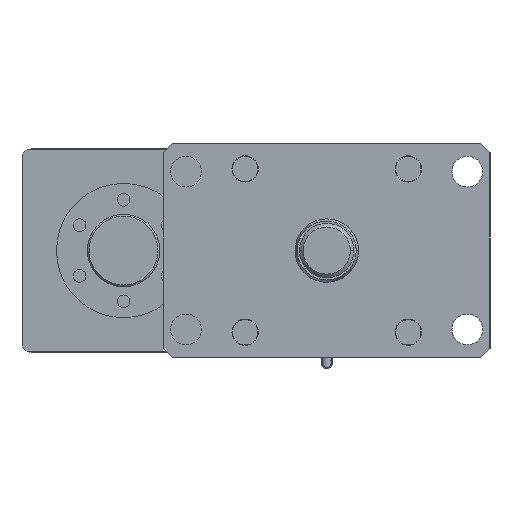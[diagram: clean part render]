
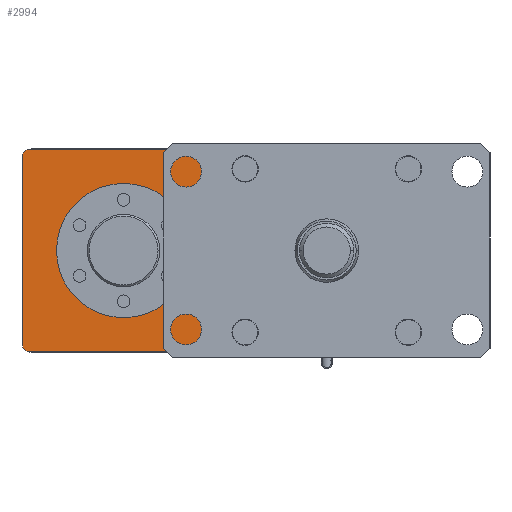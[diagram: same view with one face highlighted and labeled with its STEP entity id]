
A CAD part, front view. The second image highlights one B-rep face of the part: STEP entity #2994.
In plain terms, the highlighted planar face has unit normal (0, -1, 0).
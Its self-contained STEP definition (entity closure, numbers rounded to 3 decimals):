
#30 = DIRECTION ( 'NONE',  ( 0., 1., 0. ) ) ;
#59 = DIRECTION ( 'NONE',  ( 0., -1., 0. ) ) ;
#430 = DIRECTION ( 'NONE',  ( 0., -1., 0. ) ) ;
#764 = AXIS2_PLACEMENT_3D ( 'NONE', #7480, #59, #8752 ) ;
#833 = DIRECTION ( 'NONE',  ( -1., 0., 0. ) ) ;
#948 = EDGE_CURVE ( 'NONE', #4993, #2813, #9617, .T. ) ;
#1045 = DIRECTION ( 'NONE',  ( 0., 0., -1. ) ) ;
#1135 = VECTOR ( 'NONE', #1045, 1000. ) ;
#1387 = DIRECTION ( 'NONE',  ( 0., -1., 0. ) ) ;
#1525 = LINE ( 'NONE', #15896, #1135 ) ;
#1833 = AXIS2_PLACEMENT_3D ( 'NONE', #7446, #30, #8708 ) ;
#2014 = ORIENTED_EDGE ( 'NONE', *, *, #15987, .T. ) ;
#2072 = ORIENTED_EDGE ( 'NONE', *, *, #7945, .T. ) ;
#2134 = CARTESIAN_POINT ( 'NONE',  ( -112., 0., 0. ) ) ;
#2206 = EDGE_CURVE ( 'NONE', #8341, #6620, #7810, .T. ) ;
#2387 = LINE ( 'NONE', #7598, #5298 ) ;
#2523 = AXIS2_PLACEMENT_3D ( 'NONE', #8802, #1387, #10065 ) ;
#2741 = CARTESIAN_POINT ( 'NONE',  ( -59.6, 0., 55.8 ) ) ;
#2813 = VERTEX_POINT ( 'NONE', #12913 ) ;
#2994 = ADVANCED_FACE ( 'NONE', ( #5665, #12659 ), #13645, .F. ) ;
#3238 = ORIENTED_EDGE ( 'NONE', *, *, #2206, .T. ) ;
#3393 = DIRECTION ( 'NONE',  ( -1., 0., 0. ) ) ;
#3549 = AXIS2_PLACEMENT_3D ( 'NONE', #15676, #8252, #833 ) ;
#3856 = CARTESIAN_POINT ( 'NONE',  ( -56.2, 0., 56. ) ) ;
#4129 = VECTOR ( 'NONE', #13704, 1000. ) ;
#4281 = CIRCLE ( 'NONE', #3549, 5. ) ;
#4766 = CARTESIAN_POINT ( 'NONE',  ( -164.4, 0., -55.8 ) ) ;
#4993 = VERTEX_POINT ( 'NONE', #8058 ) ;
#5028 = CIRCLE ( 'NONE', #2523, 37. ) ;
#5298 = VECTOR ( 'NONE', #8805, 1000. ) ;
#5406 = VECTOR ( 'NONE', #12203, 1000. ) ;
#5665 = FACE_OUTER_BOUND ( 'NONE', #10993, .T. ) ;
#5795 = LINE ( 'NONE', #10942, #5406 ) ;
#6166 = EDGE_LOOP ( 'NONE', ( #11599, #9870 ) ) ;
#6620 = VERTEX_POINT ( 'NONE', #11519 ) ;
#6894 = EDGE_CURVE ( 'NONE', #15591, #4993, #2387, .T. ) ;
#7446 = CARTESIAN_POINT ( 'NONE',  ( -168., 0., 56. ) ) ;
#7480 = CARTESIAN_POINT ( 'NONE',  ( -163., 0., 51. ) ) ;
#7598 = CARTESIAN_POINT ( 'NONE',  ( -168., 0., 55.8 ) ) ;
#7779 = CIRCLE ( 'NONE', #13100, 5. ) ;
#7810 = LINE ( 'NONE', #3856, #4129 ) ;
#7844 = CARTESIAN_POINT ( 'NONE',  ( -163., 0., -51. ) ) ;
#7945 = EDGE_CURVE ( 'NONE', #13363, #15993, #7779, .T. ) ;
#8058 = CARTESIAN_POINT ( 'NONE',  ( -164.4, 0., 55.8 ) ) ;
#8252 = DIRECTION ( 'NONE',  ( 0., -1., 0. ) ) ;
#8341 = VERTEX_POINT ( 'NONE', #12564 ) ;
#8625 = EDGE_CURVE ( 'NONE', #6620, #15591, #4281, .T. ) ;
#8708 = DIRECTION ( 'NONE',  ( -1., 0., 0. ) ) ;
#8752 = DIRECTION ( 'NONE',  ( -1., 0., 0. ) ) ;
#8802 = CARTESIAN_POINT ( 'NONE',  ( -112., 0., 0. ) ) ;
#8805 = DIRECTION ( 'NONE',  ( -1., 0., 0. ) ) ;
#9126 = DIRECTION ( 'NONE',  ( -1., 0., 0. ) ) ;
#9617 = CIRCLE ( 'NONE', #764, 5. ) ;
#9870 = ORIENTED_EDGE ( 'NONE', *, *, #13527, .F. ) ;
#10065 = DIRECTION ( 'NONE',  ( -1., 0., 0. ) ) ;
#10106 = VERTEX_POINT ( 'NONE', #15117 ) ;
#10346 = CIRCLE ( 'NONE', #11432, 37. ) ;
#10459 = CARTESIAN_POINT ( 'NONE',  ( -167.8, 0., -52.4 ) ) ;
#10610 = ORIENTED_EDGE ( 'NONE', *, *, #6894, .T. ) ;
#10810 = DIRECTION ( 'NONE',  ( 0., -1., 0. ) ) ;
#10942 = CARTESIAN_POINT ( 'NONE',  ( -168., 0., -55.8 ) ) ;
#10993 = EDGE_LOOP ( 'NONE', ( #3238, #11805, #10610, #15271, #15176, #2072, #2014 ) ) ;
#11293 = VERTEX_POINT ( 'NONE', #11779 ) ;
#11432 = AXIS2_PLACEMENT_3D ( 'NONE', #2134, #10810, #3393 ) ;
#11438 = EDGE_CURVE ( 'NONE', #2813, #13363, #1525, .T. ) ;
#11519 = CARTESIAN_POINT ( 'NONE',  ( -56.2, 0., 52.4 ) ) ;
#11599 = ORIENTED_EDGE ( 'NONE', *, *, #15521, .F. ) ;
#11779 = CARTESIAN_POINT ( 'NONE',  ( -112., 0., -37. ) ) ;
#11805 = ORIENTED_EDGE ( 'NONE', *, *, #8625, .T. ) ;
#12203 = DIRECTION ( 'NONE',  ( 1., 0., 0. ) ) ;
#12564 = CARTESIAN_POINT ( 'NONE',  ( -56.2, 0., -55.8 ) ) ;
#12659 = FACE_BOUND ( 'NONE', #6166, .T. ) ;
#12913 = CARTESIAN_POINT ( 'NONE',  ( -167.8, 0., 52.4 ) ) ;
#13100 = AXIS2_PLACEMENT_3D ( 'NONE', #7844, #430, #9126 ) ;
#13363 = VERTEX_POINT ( 'NONE', #10459 ) ;
#13527 = EDGE_CURVE ( 'NONE', #11293, #10106, #10346, .T. ) ;
#13645 = PLANE ( 'NONE',  #1833 ) ;
#13704 = DIRECTION ( 'NONE',  ( 0., 0., 1. ) ) ;
#15117 = CARTESIAN_POINT ( 'NONE',  ( -112., 0., 37. ) ) ;
#15176 = ORIENTED_EDGE ( 'NONE', *, *, #11438, .T. ) ;
#15271 = ORIENTED_EDGE ( 'NONE', *, *, #948, .T. ) ;
#15521 = EDGE_CURVE ( 'NONE', #10106, #11293, #5028, .T. ) ;
#15591 = VERTEX_POINT ( 'NONE', #2741 ) ;
#15676 = CARTESIAN_POINT ( 'NONE',  ( -61., 0., 51. ) ) ;
#15896 = CARTESIAN_POINT ( 'NONE',  ( -167.8, 0., 56. ) ) ;
#15987 = EDGE_CURVE ( 'NONE', #15993, #8341, #5795, .T. ) ;
#15993 = VERTEX_POINT ( 'NONE', #4766 ) ;
